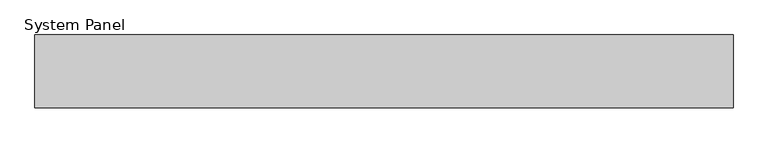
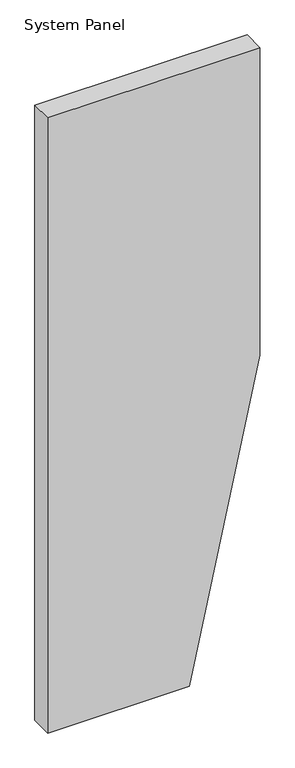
"""IFC4 building model written with IfcOpenShell, lengths in millimetres: plate geometry, System Panel : Equitilt_125mm_Plain_Surfmist."""

from ifc_helpers import new_model, si_unit, frame, origin, place, context, project, spatial, polyline, outline, extrude, source, transform, mapped, element, save


def system_panel_3f7d2aac(model_context):
    return source(origin(), model_context, "Body", "SweptSolid", [
        extrude(outline(polyline([(0.0, -600.0), (0.0, 200.0), (1839.9852118, 600.0), (3679.9704237, 600.0), (3679.9704237, -600.0), (0.0, -600.0)])), frame((0.0, -125.0, 0.0), z_axis=(0.0, 1.0, 0.0), x_axis=(0.0, 0.0, 1.0)), (0.0, 0.0, 1.0), 125.0),
    ])


if __name__ == "__main__":
    model = new_model("IFC4")
    model_context = context("Model", 3, world=origin())
    ifc_project = project(units=[si_unit("LENGTHUNIT", "METRE", prefix="MILLI")], contexts=[model_context])
    site = spatial("IfcSite", under=ifc_project)
    building = spatial("IfcBuilding", under=site)
    placement = place(None, origin())
    system_panel_shape = system_panel_3f7d2aac(model_context)
    element("IfcPlate", 1, ObjectType="System Panel : Equitilt_125mm_Plain_Surfmist", at=placement, inside=building, context=model_context, shape_type="MappedRepresentation", body=[
        mapped(system_panel_shape, transform((0.0, 0.0, 0.0), x_axis=(1.0, 0.0, 0.0), y_axis=(0.0, 1.0, 0.0), z_axis=(0.0, 0.0, 1.0))),
    ])
    save(model, "model.ifc")
